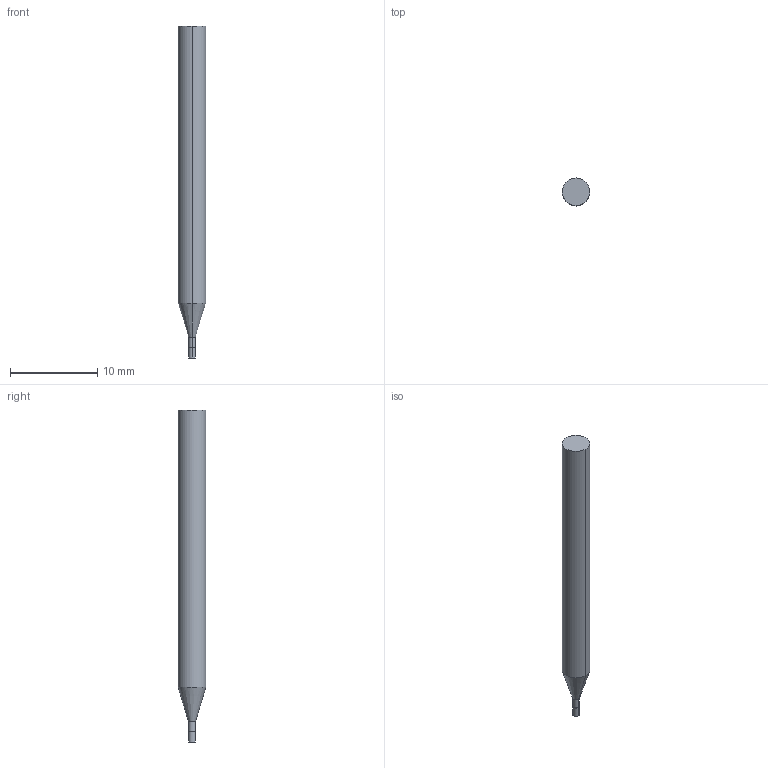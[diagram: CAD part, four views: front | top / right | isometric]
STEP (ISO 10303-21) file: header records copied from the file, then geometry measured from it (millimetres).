
FILE_DESCRIPTION((' '),'2;1');
FILE_NAME( '3MVS0312N3AH.stp', '2026-01-21T19:06:45', (' '), ('--- Datakit www.datakit.com---'), ' Datakit CrossCadWare V2025.4 Sep 19 2025', 'Mastercam 2027', ' ');
FILE_SCHEMA(('AUTOMOTIVE_DESIGN { 1 0 10303 214 1 1 1 1 }'));
Length unit declared in the file: inch
Products named in the file (1): 3MVS0312N3AH
Bounding box: 3.17 x 3.17 x 38.1 mm (x, y, z)
Volume: 266.8 mm3; surface area: 357.3 mm2
Topology: 1 solids, 1 shells, 10 faces, 18 edges, 10 vertices
Faces by surface type: cylinder 6, plane 2, cone 2
Entity records: 323 total; most frequent: DIRECTION 58, CARTESIAN_POINT 43, ORIENTED_EDGE 36, AXIS2_PLACEMENT_3D 25, EDGE_CURVE 18, VERTEX_POINT 10, CIRCLE 10, EDGE_LOOP 10
